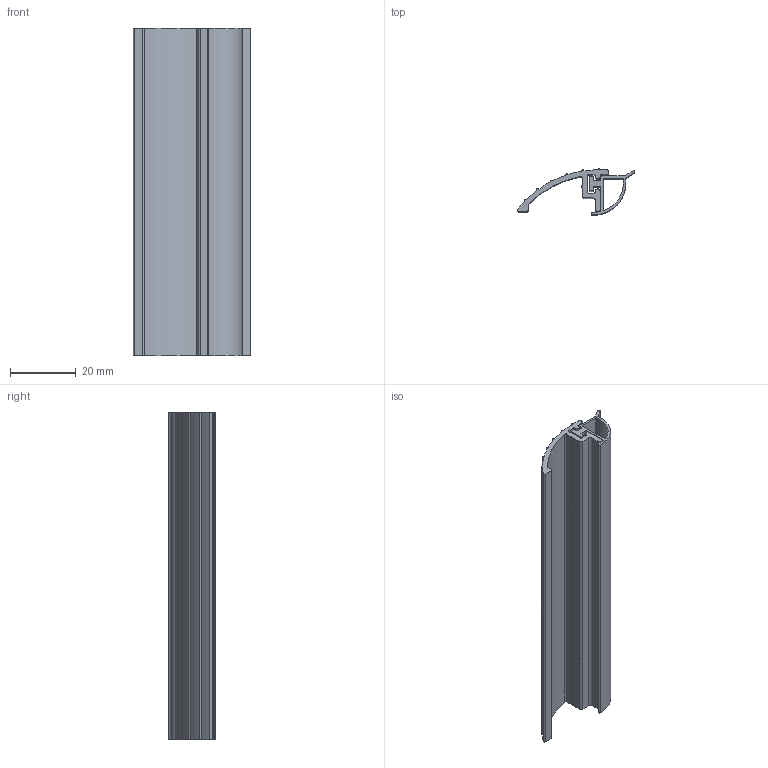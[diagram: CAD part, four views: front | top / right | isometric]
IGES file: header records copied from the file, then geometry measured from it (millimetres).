
Global section: file name: No Iges File Name specified; native system: Autodesk Inventor 2012; preprocessor: AutoDesk Inventor Iges Exporter R2012; author: anna.b; date: 20130718.110722; units: millimetre
Bounding box: 35.98 x 14.06 x 100 mm (x, y, z)
Volume: 11315.3 mm3; surface area: 18780 mm2
Topology: 2 solids, 2 shells, 80 faces, 228 edges, 152 vertices
Faces by surface type: plane 35, cylinder 26, revolution 19
